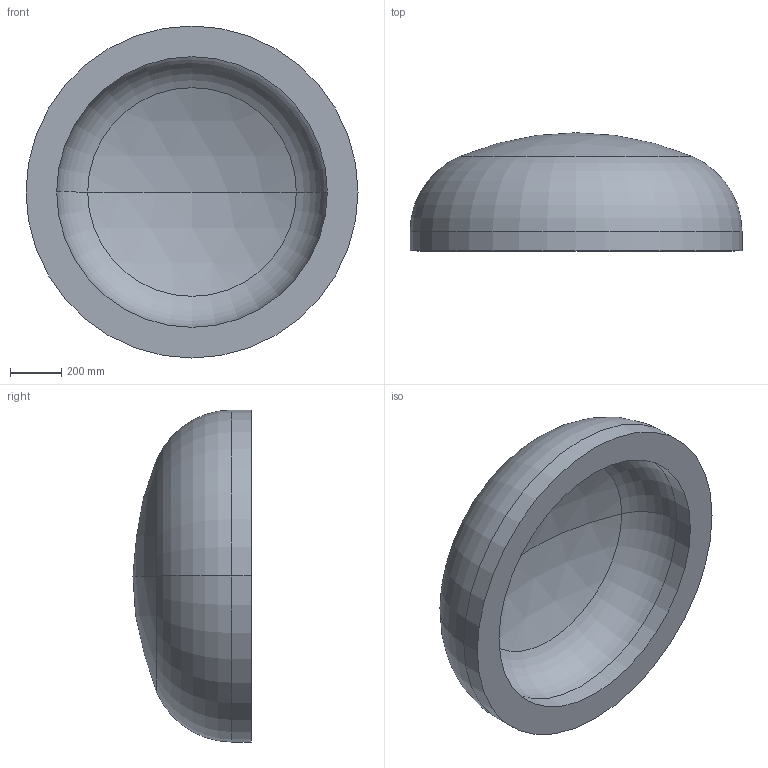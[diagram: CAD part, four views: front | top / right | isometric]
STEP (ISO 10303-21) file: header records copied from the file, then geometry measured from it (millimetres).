
FILE_DESCRIPTION (( 'STEP AP203' ), '1' );
FILE_NAME ('DIN 28013 Korbbogenform_-_Boden DIN 28013 - 1300 x 75 - I - s=120.step', '2016-07-01T10:04:55', ( '' ), ( '' ), 'SwSTEP 2.0', 'SolidWorks 2013', '' );
FILE_SCHEMA (( 'CONFIG_CONTROL_DESIGN' ));
Length unit declared in the file: millimetre
Products named in the file (1): DIN 28013 Korbbogenform_-_Boden DIN 28013 - 1300 x 75 - I - s=120
Bounding box: 1300 x 462.54 x 1300 mm (x, y, z)
Volume: 229989608 mm3; surface area: 4308168.2 mm2
Topology: 1 solids, 1 shells, 13 faces, 24 edges, 14 vertices
Faces by surface type: torus 4, cylinder 4, sphere 4, plane 1
Entity records: 407 total; most frequent: DIRECTION 72, CARTESIAN_POINT 52, ORIENTED_EDGE 48, AXIS2_PLACEMENT_3D 34, EDGE_CURVE 24, CIRCLE 20, EDGE_LOOP 14, VERTEX_POINT 14
